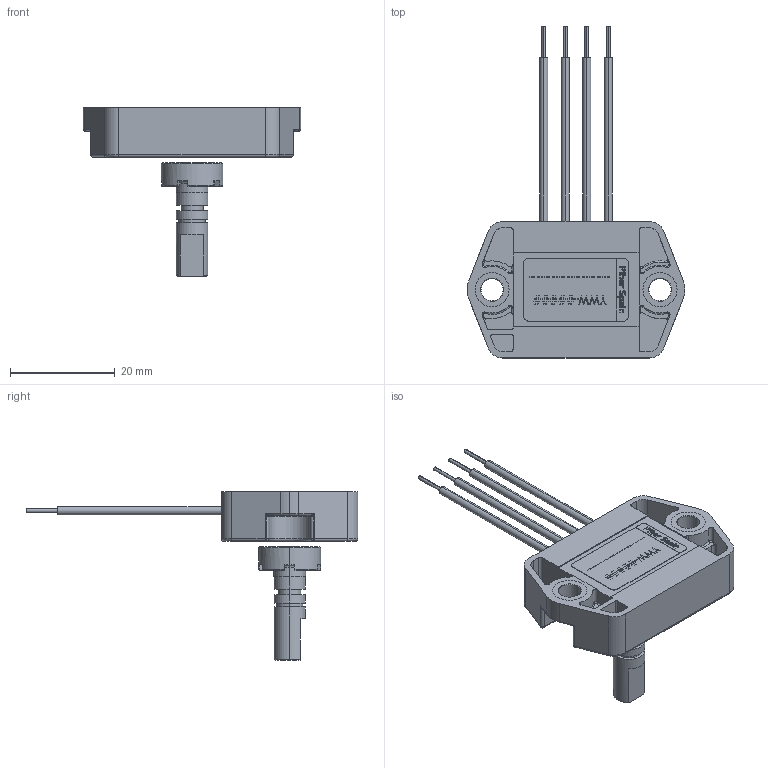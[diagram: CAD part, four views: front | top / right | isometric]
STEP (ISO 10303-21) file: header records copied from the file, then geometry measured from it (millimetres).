
FILE_DESCRIPTION (( 'STEP AP203' ), '1' );
FILE_NAME ('PS2P-CON-M006.STEP', '2022-04-27T11:10:44', ( '' ), ( '' ), 'SwSTEP 2.0', 'SolidWorks 2018', '' );
FILE_SCHEMA (( 'CONFIG_CONTROL_DESIGN' ));
Length unit declared in the file: millimetre
Products named in the file (1): PS2P-CON-M006
Bounding box: 41.49 x 63.25 x 32.2 mm (x, y, z)
Surface area: 6214.5 mm2 (no closed solid volume)
Topology: 0 solids, 30 shells, 518 faces, 2091 edges, 1592 vertices
Faces by surface type: plane 248, cylinder 163, torus 50, bspline 38, cone 13, sphere 6
Entity records: 25189 total; most frequent: CARTESIAN_POINT 8407, DIRECTION 3215, ORIENTED_EDGE 3164, EDGE_CURVE 2081, VERTEX_POINT 1592, LINE 1387, VECTOR 1387, AXIS2_PLACEMENT_3D 914
